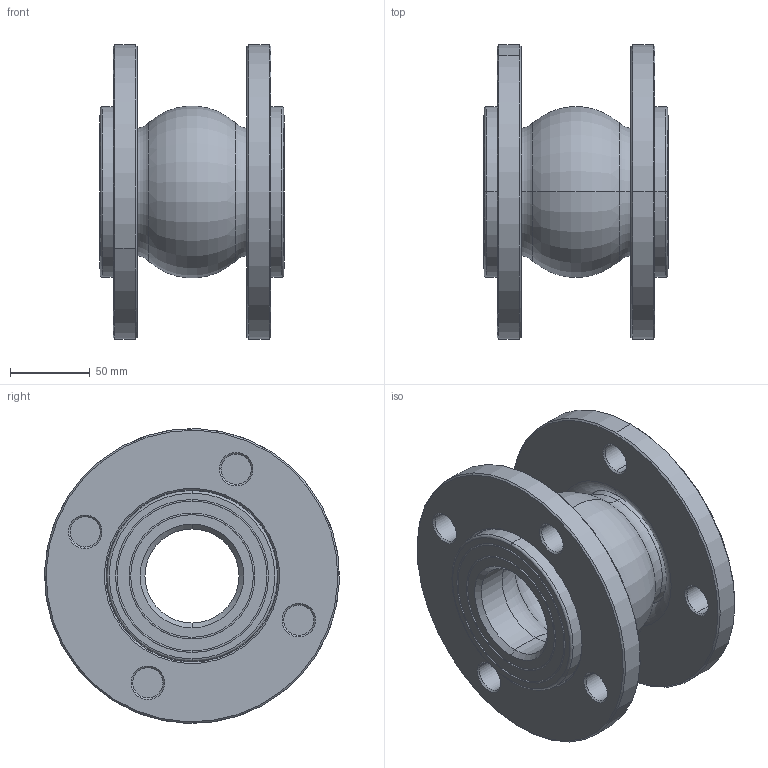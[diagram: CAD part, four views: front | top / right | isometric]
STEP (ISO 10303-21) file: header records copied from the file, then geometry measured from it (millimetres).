
FILE_DESCRIPTION (( 'STEP AP203' ), '1' );
FILE_NAME ('DN65 PN16.STEP', '2026-07-16T06:17:22', ( 'Windows 蚚誧' ), ( '' ), 'SwSTEP 2.0', 'SolidWorks 2018', '' );
FILE_SCHEMA (( 'CONFIG_CONTROL_DESIGN' ));
Length unit declared in the file: millimetre
Products named in the file (3): DN65 PN16; DN65
Assembly tree (3 placements, depth 2):
  DN65 PN16
    DN65
    DN65 PN16  x2
Bounding box: 116 x 185 x 185 mm (x, y, z)
Volume: 988310.3 mm3; surface area: 202912.2 mm2
Topology: 3 solids, 3 shells, 166 faces, 348 edges, 200 vertices
Faces by surface type: cone 52, cylinder 48, torus 48, plane 18
Entity records: 3509 total; most frequent: DIRECTION 676, CARTESIAN_POINT 508, ORIENTED_EDGE 488, AXIS2_PLACEMENT_3D 308, EDGE_CURVE 244, CIRCLE 184, EDGE_LOOP 140, VERTEX_POINT 140
